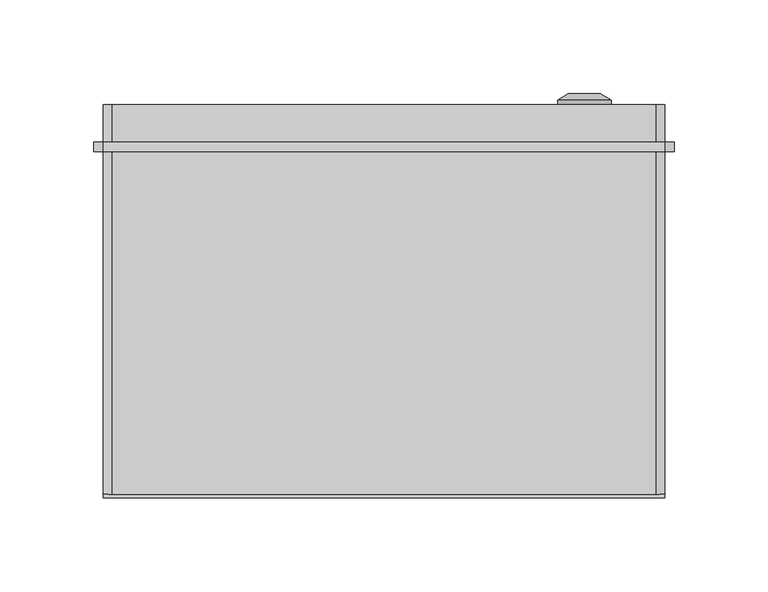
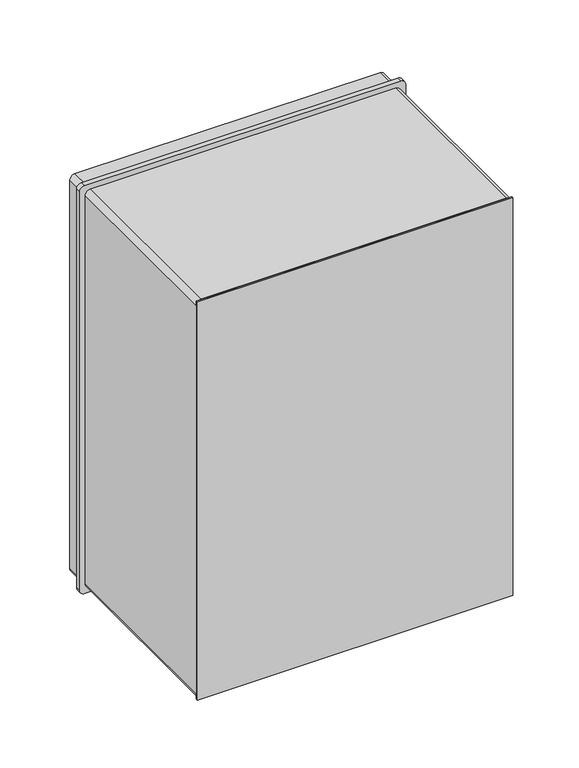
"""IFC4 building model written with IfcOpenShell, lengths in millimetres: proxy geometry, ЩПМП_IP55 : ЩПМП-1-0."""

import ifcopenshell
import ifcopenshell.guid

model = None  # the IFC model being written
_history = None  # IfcOwnerHistory: only IFC2X3 demands one
_inside = {}  # id of a spatial element -> (the spatial element, [elements in it])
_under = {}  # id of a project, library or spatial element -> (it, [spatial elements below it])
_declared = {}  # id of a project -> (the project, [libraries it declares])
_typed = {}  # id of a type object -> (the type object, [elements of that type])
_made_of = {}  # id of a material, layer set ... -> (it, [elements and type objects made of it])


def new_model(schema):
    """Start an empty IFC model of exactly this schema.

    Asked for "IFC4X3", IfcOpenShell would pick the latest addendum, in which some entities
    have other attributes; the version numbers below select the first issue.
    IFC2X3 requires an IfcOwnerHistory on every rooted entity: one is made here for all.
    """
    global model, _history
    if schema == "IFC4X3":
        model = ifcopenshell.file(schema_version=(4, 3, 0, 0))
    else:
        model = ifcopenshell.file(schema=schema)
    _inside.clear()
    _under.clear()
    _declared.clear()
    _typed.clear()
    _made_of.clear()
    _history = None
    if model.schema == "IFC2X3":
        org = make("IfcOrganization", Name="unknown")
        user = make(
            "IfcPersonAndOrganization",
            ThePerson=make("IfcPerson", FamilyName="unknown"),
            TheOrganization=org,
        )
        app = make(
            "IfcApplication",
            ApplicationDeveloper=org,
            Version="unknown",
            ApplicationFullName="unknown",
            ApplicationIdentifier="unknown",
        )
        _history = make(
            "IfcOwnerHistory",
            OwningUser=user,
            OwningApplication=app,
            ChangeAction="ADDED",
            CreationDate=0,
        )
    return model


def make(cls, **values):
    """One entity of the class cls with the attributes given. An attribute that is None is left unset."""
    return model.create_entity(
        cls, **{name: value for name, value in values.items() if value is not None}
    )


def rooted(cls, **values):
    """An entity with a GlobalId (a new one), such as an element, a storey or a relation."""
    return make(cls, GlobalId=ifcopenshell.guid.new(), OwnerHistory=_history, **values)


def si_unit(unit_type, name, prefix=None):
    """IfcSIUnit, for example si_unit("LENGTHUNIT", "METRE", prefix="MILLI")."""
    return make("IfcSIUnit", UnitType=unit_type, Prefix=prefix, Name=name)


def assignment(units):
    """IfcUnitAssignment: the units of a project."""
    return None if units is None else make("IfcUnitAssignment", Units=units)


def point(xyz):
    """IfcCartesianPoint."""
    return None if xyz is None else make("IfcCartesianPoint", Coordinates=xyz)


def direction(xyz):
    """IfcDirection."""
    return None if xyz is None else make("IfcDirection", DirectionRatios=xyz)


def frame(location, z_axis=None, x_axis=None):
    """IfcAxis2Placement3D, a coordinate frame: its origin and axes. An axis left out is left unset."""
    return make(
        "IfcAxis2Placement3D",
        Location=point(location),
        Axis=direction(z_axis),
        RefDirection=direction(x_axis),
    )


def frame_2d(location, x_axis=None):
    """IfcAxis2Placement2D, a coordinate frame in the plane: its origin and x axis."""
    return make(
        "IfcAxis2Placement2D", Location=point(location), RefDirection=direction(x_axis)
    )


def origin():
    """The frame at (0, 0, 0) with its axes left unset."""
    return frame((0.0, 0.0, 0.0))


def origin_with_axes():
    """The frame at (0, 0, 0) with the z axis (0, 0, 1) and the x axis (1, 0, 0) written out."""
    return frame((0.0, 0.0, 0.0), z_axis=(0.0, 0.0, 1.0), x_axis=(1.0, 0.0, 0.0))


def place(relative_to, where):
    """IfcLocalPlacement: puts the frame where relative to a parent placement (None: the world)."""
    return make(
        "IfcLocalPlacement", PlacementRelTo=relative_to, RelativePlacement=where
    )


def context(
    kind, dimensions, precision=None, world=None, true_north=None, identifier=None
):
    """IfcGeometricRepresentationContext, for example the 3D "Model" context."""
    return make(
        "IfcGeometricRepresentationContext",
        ContextIdentifier=identifier,
        ContextType=kind,
        CoordinateSpaceDimension=dimensions,
        Precision=precision,
        WorldCoordinateSystem=world,
        TrueNorth=true_north,
    )


def project(units=None, contexts=None):
    """IfcProject with its units and contexts."""
    return rooted(
        "IfcProject",
        Name="project",
        RepresentationContexts=contexts,
        UnitsInContext=assignment(units),
    )


def spatial(cls, under=None, at=None, **own):
    """A site, building, storey or space (cls), placed at a placement, below another one or the project."""
    s = rooted(cls, ObjectPlacement=at, **own)
    if under is not None:
        _under.setdefault(under.id(), (under, []))[1].append(s)
    return s


def polyline(points):
    """IfcPolyline through the points."""
    return make("IfcPolyline", Points=[point(p) for p in points])


def circle_curve(where, radius):
    """IfcCircle in the frame where."""
    return make("IfcCircle", Position=where, Radius=radius)


def trimmed(basis, trim1, trim2, sense, master):
    """IfcTrimmedCurve: the piece of a basis curve between two trims."""
    return make(
        "IfcTrimmedCurve",
        BasisCurve=basis,
        Trim1=trim1,
        Trim2=trim2,
        SenseAgreement=sense,
        MasterRepresentation=master,
    )


def segment(curve, same_sense, transition):
    """IfcCompositeCurveSegment."""
    return make(
        "IfcCompositeCurveSegment",
        Transition=transition,
        SameSense=same_sense,
        ParentCurve=curve,
    )


def composite_curve(segments, self_intersect=None):
    """IfcCompositeCurve: segments joined end to end."""
    return make("IfcCompositeCurve", Segments=segments, SelfIntersect=self_intersect)


def outline(outer, holes=None, kind="AREA"):
    """IfcArbitraryClosedProfileDef: a profile drawn as a closed curve; with holes, ...WithVoids."""
    if holes is None:
        return make("IfcArbitraryClosedProfileDef", ProfileType=kind, OuterCurve=outer)
    return make(
        "IfcArbitraryProfileDefWithVoids",
        ProfileType=kind,
        OuterCurve=outer,
        InnerCurves=holes,
    )


def extrude(swept, where, along, depth):
    """IfcExtrudedAreaSolid: the profile swept, set in the frame where, extruded along a direction by depth."""
    return make(
        "IfcExtrudedAreaSolid",
        SweptArea=swept,
        Position=where,
        ExtrudedDirection=direction(along),
        Depth=depth,
    )


def shape(context_of_items, identifier, shape_type, items):
    """IfcShapeRepresentation: the items that make up one representation, for example the "Body"."""
    return make(
        "IfcShapeRepresentation",
        ContextOfItems=context_of_items,
        RepresentationIdentifier=identifier,
        RepresentationType=shape_type,
        Items=items,
    )


def source(mapping_origin, context_of_items, identifier, shape_type, items):
    """IfcRepresentationMap: a shape defined once, which mapped items show again and again."""
    return make(
        "IfcRepresentationMap",
        MappingOrigin=mapping_origin,
        MappedRepresentation=shape(context_of_items, identifier, shape_type, items),
    )


def transform(
    local_origin,
    x_axis=None,
    y_axis=None,
    z_axis=None,
    scale=None,
    scale2=None,
    scale3=None,
    uniform=True,
):
    """IfcCartesianTransformationOperator3D, or its non-uniform kind. x_axis, y_axis, z_axis: its Axis1, 2, 3."""
    if uniform:
        return make(
            "IfcCartesianTransformationOperator3D",
            Axis1=direction(x_axis),
            Axis2=direction(y_axis),
            LocalOrigin=point(local_origin),
            Scale=scale,
            Axis3=direction(z_axis),
        )
    return make(
        "IfcCartesianTransformationOperator3DnonUniform",
        Axis1=direction(x_axis),
        Axis2=direction(y_axis),
        LocalOrigin=point(local_origin),
        Scale=scale,
        Axis3=direction(z_axis),
        Scale2=scale2,
        Scale3=scale3,
    )


def mapped(mapping_source, mapping_target):
    """IfcMappedItem: shows the shape of a source again, moved by a transform."""
    return make(
        "IfcMappedItem", MappingSource=mapping_source, MappingTarget=mapping_target
    )


def made_of(thing, what):
    """Note that an element or type object is made of a material, layer set ...; save() writes the relation."""
    if what is not None:
        _made_of.setdefault(what.id(), (what, []))[1].append(thing)
    return thing


def element(
    cls,
    number,
    at=None,
    inside=None,
    cuts=None,
    type_object=None,
    material=None,
    context=None,
    identifier="Body",
    shape_type=None,
    held_by="IfcProductDefinitionShape",
    body=None,
    shapes=None,
    **own,
):
    """One element of the class cls, such as IfcWall. Its Tag is "e" and its number.

    at: its placement. inside: the storey or other place that contains it. cuts: it is an
    opening in that element (IfcRelVoidsElement). A single representation is given by context,
    identifier, shape_type and body (its items); several are given by shapes. held_by: the class
    of the entity that holds the representations. save() writes the other relations.
    """
    e = rooted(cls, Tag="e%d" % number, ObjectPlacement=at, **own)
    if body is not None:
        shapes = [shape(context, identifier, shape_type, body)]
    if shapes is not None:
        e.Representation = make(held_by, Representations=shapes)
    if inside is not None:
        _inside.setdefault(inside.id(), (inside, []))[1].append(e)
    if cuts is not None:
        rooted(
            "IfcRelVoidsElement", RelatingBuildingElement=cuts, RelatedOpeningElement=e
        )
    if type_object is not None:
        _typed.setdefault(type_object.id(), (type_object, []))[1].append(e)
    return made_of(e, material)


def aggregate(whole, parts):
    """IfcRelAggregates: a whole, such as a stair, and the parts it consists of."""
    return rooted("IfcRelAggregates", RelatingObject=whole, RelatedObjects=parts)


def save(model, path):
    """Write the relations noted so far, then the file.

    IfcRelAggregates (storeys below a building ...), IfcRelContainedInSpatialStructure (elements
    in a storey), IfcRelDefinesByType, IfcRelAssociatesMaterial and IfcRelDeclares: one each for
    every whole, place, type object, material and project.
    """
    for whole, parts in _under.values():
        aggregate(whole, parts)
    for where, things in _inside.values():
        rooted(
            "IfcRelContainedInSpatialStructure",
            RelatedElements=things,
            RelatingStructure=where,
        )
    for kind, things in _typed.values():
        rooted("IfcRelDefinesByType", RelatedObjects=things, RelatingType=kind)
    for what, things in _made_of.values():
        rooted("IfcRelAssociatesMaterial", RelatedObjects=things, RelatingMaterial=what)
    for by, libraries in _declared.values():
        rooted("IfcRelDeclares", RelatingContext=by, RelatedDefinitions=libraries)
    model.write(path)


def plane_surface(at):
    """IfcPlane: the flat surface through the origin of the frame at, square to its z axis."""
    return make("IfcPlane", Position=at)


def cylinder_surface(at, radius):
    """IfcCylindricalSurface: all points at the distance radius from the z axis of the frame at."""
    return make("IfcCylindricalSurface", Position=at, Radius=radius)


def revolved_surface(curve, axis_point, axis_direction):
    """IfcSurfaceOfRevolution: the curve turned about the line through axis_point along axis_direction."""
    return make(
        "IfcSurfaceOfRevolution",
        SweptCurve=make("IfcArbitraryOpenProfileDef", ProfileType="CURVE", Curve=curve),
        AxisPosition=make("IfcAxis1Placement", Location=point(axis_point), Axis=direction(axis_direction)),
    )


def advanced_brep(points, edges, surfaces, faces):
    """IfcAdvancedBrep: a solid bounded by faces that lie on surfaces and meet in shared edges.

    An edge is (start, end): straight between two places in points (the first is 0);
    or (start, end, curve); or (start, end, curve, False) where it runs against its curve.
    A face is (place in surfaces, loops), or (place, loops, False) where it looks against
    its surface's normal. A loop lists edges by number (the first is 1), with a minus sign
    where the edge is run from its end to its start. The first loop is the outer one.
    """
    corners = [point(p) for p in points]
    vertices = [make("IfcVertexPoint", VertexGeometry=c) for c in corners]
    made = []
    for start, end, *more in edges:
        made.append(
            make(
                "IfcEdgeCurve",
                EdgeStart=vertices[start],
                EdgeEnd=vertices[end],
                EdgeGeometry=more[0] if more else make("IfcPolyline", Points=[corners[start], corners[end]]),
                SameSense=more[1] if len(more) > 1 else True,
            )
        )
    hull = []
    for where, loops, *sense in faces:
        bounds = []
        for j, loop in enumerate(loops):
            ring = [make("IfcOrientedEdge", EdgeElement=made[abs(k) - 1], Orientation=k > 0) for k in loop]
            bounds.append(
                make(
                    "IfcFaceOuterBound" if j == 0 else "IfcFaceBound",
                    Bound=make("IfcEdgeLoop", EdgeList=ring),
                    Orientation=True,
                )
            )
        hull.append(make("IfcAdvancedFace", Bounds=bounds, FaceSurface=surfaces[where], SameSense=sense[0] if sense else True))
    return make("IfcAdvancedBrep", Outer=make("IfcClosedShell", CfsFaces=hull))


def electrical_equipment_acb14810(model_context):
    return source(origin(), model_context, "Body", "SolidModel", [
        advanced_brep(
        [(92.669873, 210.0, 56.5), (121.330127, 210.0, 56.5), (107.0, 210.0, 56.5), (92.669873, 212.366592, 56.5), (121.330127, 212.366592, 56.5), (98.4845412, 216.0, 56.5), (115.5154588, 216.0, 56.5), (104.0610864, 216.0, 56.5), (109.9389136, 216.0, 56.5), (104.0610864, 214.9822294, 56.5), (109.9389136, 214.9822294, 56.5), (107.0, 214.9822294, 56.5)],
        [
            (0, 1, circle_curve(frame((107.0, 210.0, 56.5), z_axis=(0.0, -1.0, 0.0), x_axis=(1.0, 0.0, 0.0)), 14.330127)),
            (1, 2),
            (2, 0),
            (1, 0, circle_curve(frame((107.0, 210.0, 56.5), z_axis=(0.0, -1.0, 0.0), x_axis=(1.0, 0.0, 0.0)), 14.330127)),
            (3, 4, circle_curve(frame((107.0, 212.366592, 56.5), z_axis=(0.0, -1.0, 0.0), x_axis=(1.0, 0.0, 0.0)), 14.330127)),
            (4, 1),
            (0, 3),
            (4, 3, circle_curve(frame((107.0, 212.366592, 56.5), z_axis=(0.0, -1.0, 0.0), x_axis=(1.0, 0.0, 0.0)), 14.330127)),
            (5, 6, circle_curve(frame((107.0, 216.0, 56.5), z_axis=(0.0, -1.0, 0.0), x_axis=(1.0, 0.0, 0.0)), 8.5154588)),
            (6, 4),
            (3, 5),
            (6, 5, circle_curve(frame((107.0, 216.0, 56.5), z_axis=(0.0, -1.0, 0.0), x_axis=(1.0, 0.0, 0.0)), 8.5154588)),
            (7, 8, circle_curve(frame((107.0, 216.0, 56.5), z_axis=(0.0, -1.0, 0.0), x_axis=(1.0, 0.0, 0.0)), 2.9389136)),
            (8, 6),
            (5, 7),
            (8, 7, circle_curve(frame((107.0, 216.0, 56.5), z_axis=(0.0, -1.0, 0.0), x_axis=(1.0, 0.0, 0.0)), 2.9389136)),
            (9, 10, circle_curve(frame((107.0, 214.9822294, 56.5), z_axis=(0.0, -1.0, 0.0), x_axis=(1.0, 0.0, 0.0)), 2.9389136)),
            (10, 8),
            (7, 9),
            (10, 9, circle_curve(frame((107.0, 214.9822294, 56.5), z_axis=(0.0, -1.0, 0.0), x_axis=(1.0, 0.0, 0.0)), 2.9389136)),
            (11, 10),
            (9, 11),
        ],
        [
            plane_surface(frame((107.0, 210.0, 56.5), z_axis=(0.0, -1.0, 0.0), x_axis=(1.0, 0.0, 0.0))),
            cylinder_surface(frame((107.0, 223.1348851, 56.5), z_axis=(0.0, 1.0, 0.0), x_axis=(1.0, 0.0, 0.0)), 14.330127),
            revolved_surface(polyline([(121.330127, 212.366592, 56.5), (115.5154588, 216.0, 56.5)]), (107.0, 223.1348851, 56.5), (0.0, 1.0, 0.0)),
            plane_surface(frame((107.0, 216.0, 56.5), z_axis=(0.0, 1.0, 0.0), x_axis=(1.0, 0.0, 0.0))),
            revolved_surface(polyline([(109.9389136, 216.0, 56.5), (109.9389136, 214.9822294, 56.5)]), (107.0, 223.1348851, 56.5), (0.0, 1.0, 0.0)),
            plane_surface(frame((107.0, 214.9822294, 56.5), z_axis=(0.0, 1.0, 0.0), x_axis=(1.0, 0.0, 0.0))),
        ],
        [
            (0, [[1, 2, 3]]),
            (0, [[4, -3, -2]]),
            (1, [[5, 6, -1, 7]]),
            (1, [[8, -7, -4, -6]]),
            (2, [[9, 10, -5, 11]]),
            (2, [[12, -11, -8, -10]]),
            (3, [[13, 14, -9, 15]]),
            (3, [[16, -15, -12, -14]]),
            (4, [[17, 18, -13, 19]]),
            (4, [[20, -19, -16, -18]]),
            (5, [[21, -17, 22]]),
            (5, [[-22, -20, -21]]),
        ],
    ),
        advanced_brep(
        [(92.669873, 210.0, 348.5), (121.330127, 210.0, 348.5), (107.0, 210.0, 348.5), (92.669873, 212.366592, 348.5), (121.330127, 212.366592, 348.5), (98.4845412, 216.0, 348.5), (115.5154588, 216.0, 348.5), (104.0610864, 216.0, 348.5), (109.9389136, 216.0, 348.5), (104.0610864, 214.9822294, 348.5), (109.9389136, 214.9822294, 348.5), (107.0, 214.9822294, 348.5)],
        [
            (0, 1, circle_curve(frame((107.0, 210.0, 348.5), z_axis=(0.0, -1.0, 0.0), x_axis=(1.0, 0.0, 0.0)), 14.330127)),
            (1, 2),
            (2, 0),
            (1, 0, circle_curve(frame((107.0, 210.0, 348.5), z_axis=(0.0, -1.0, 0.0), x_axis=(1.0, 0.0, 0.0)), 14.330127)),
            (3, 4, circle_curve(frame((107.0, 212.366592, 348.5), z_axis=(0.0, -1.0, 0.0), x_axis=(1.0, 0.0, 0.0)), 14.330127)),
            (4, 1),
            (0, 3),
            (4, 3, circle_curve(frame((107.0, 212.366592, 348.5), z_axis=(0.0, -1.0, 0.0), x_axis=(1.0, 0.0, 0.0)), 14.330127)),
            (5, 6, circle_curve(frame((107.0, 216.0, 348.5), z_axis=(0.0, -1.0, 0.0), x_axis=(1.0, 0.0, 0.0)), 8.5154588)),
            (6, 4),
            (3, 5),
            (6, 5, circle_curve(frame((107.0, 216.0, 348.5), z_axis=(0.0, -1.0, 0.0), x_axis=(1.0, 0.0, 0.0)), 8.5154588)),
            (7, 8, circle_curve(frame((107.0, 216.0, 348.5), z_axis=(0.0, -1.0, 0.0), x_axis=(1.0, 0.0, 0.0)), 2.9389136)),
            (8, 6),
            (5, 7),
            (8, 7, circle_curve(frame((107.0, 216.0, 348.5), z_axis=(0.0, -1.0, 0.0), x_axis=(1.0, 0.0, 0.0)), 2.9389136)),
            (9, 10, circle_curve(frame((107.0, 214.9822294, 348.5), z_axis=(0.0, -1.0, 0.0), x_axis=(1.0, 0.0, 0.0)), 2.9389136)),
            (10, 8),
            (7, 9),
            (10, 9, circle_curve(frame((107.0, 214.9822294, 348.5), z_axis=(0.0, -1.0, 0.0), x_axis=(1.0, 0.0, 0.0)), 2.9389136)),
            (11, 10),
            (9, 11),
        ],
        [
            plane_surface(frame((107.0, 210.0, 348.5), z_axis=(0.0, -1.0, 0.0), x_axis=(1.0, 0.0, 0.0))),
            cylinder_surface(frame((107.0, 223.1348851, 348.5), z_axis=(0.0, 1.0, 0.0), x_axis=(1.0, 0.0, 0.0)), 14.330127),
            revolved_surface(polyline([(121.330127, 212.366592, 348.5), (115.5154588, 216.0, 348.5)]), (107.0, 223.1348851, 348.5), (0.0, 1.0, 0.0)),
            plane_surface(frame((107.0, 216.0, 348.5), z_axis=(0.0, 1.0, 0.0), x_axis=(1.0, 0.0, 0.0))),
            revolved_surface(polyline([(109.9389136, 216.0, 348.5), (109.9389136, 214.9822294, 348.5)]), (107.0, 223.1348851, 348.5), (0.0, 1.0, 0.0)),
            plane_surface(frame((107.0, 214.9822294, 348.5), z_axis=(0.0, 1.0, 0.0), x_axis=(1.0, 0.0, 0.0))),
        ],
        [
            (0, [[1, 2, 3]]),
            (0, [[4, -3, -2]]),
            (1, [[5, 6, -1, 7]]),
            (1, [[8, -7, -4, -6]]),
            (2, [[9, 10, -5, 11]]),
            (2, [[12, -11, -8, -10]]),
            (3, [[13, 14, -9, 15]]),
            (3, [[16, -15, -12, -14]]),
            (4, [[17, 18, -13, 19]]),
            (4, [[20, -19, -16, -18]]),
            (5, [[21, -17, 22]]),
            (5, [[-22, -20, -21]]),
        ],
    ),
        extrude(outline(composite_curve([segment(trimmed(circle_curve(frame_2d((400.0, -150.0)), 5.0), [point((405.0, -150.0))], [point((400.0, -155.0))], False, "CARTESIAN"), True, "CONTINUOUS"), segment(polyline([(400.0, -155.0), (0.0, -155.0)]), True, "CONTINUOUS"), segment(trimmed(circle_curve(frame_2d((0.0, -150.0)), 5.0), [point((0.0, -155.0))], [point((-5.0, -150.0))], False, "CARTESIAN"), True, "CONTINUOUS"), segment(polyline([(-5.0, -150.0), (-5.0, 150.0)]), True, "CONTINUOUS"), segment(trimmed(circle_curve(frame_2d((0.0, 150.0)), 5.0), [point((-5.0, 150.0))], [point((0.0, 155.0))], False, "CARTESIAN"), True, "CONTINUOUS"), segment(polyline([(0.0, 155.0), (400.0, 155.0)]), True, "CONTINUOUS"), segment(trimmed(circle_curve(frame_2d((400.0, 150.0)), 5.0), [point((400.0, 155.0))], [point((405.0, 150.0))], False, "CARTESIAN"), True, "CONTINUOUS"), segment(polyline([(405.0, 150.0), (405.0, -150.0)]), True, "CONTINUOUS")], self_intersect=False)), frame((0.0, 185.0, 0.0), z_axis=(0.0, 1.0, 0.0), x_axis=(0.0, 0.0, 1.0)), (0.0, 0.0, 1.0), 5.0),
        extrude(outline(composite_curve([segment(trimmed(circle_curve(frame_2d((395.0, -145.0)), 5.0), [point((400.0, -145.0))], [point((395.0, -150.0))], False, "CARTESIAN"), True, "CONTINUOUS"), segment(polyline([(395.0, -150.0), (5.0, -150.0)]), True, "CONTINUOUS"), segment(trimmed(circle_curve(frame_2d((5.0, -145.0)), 5.0), [point((5.0, -150.0))], [point((0.0, -145.0))], False, "CARTESIAN"), True, "CONTINUOUS"), segment(polyline([(0.0, -145.0), (0.0, 145.0)]), True, "CONTINUOUS"), segment(trimmed(circle_curve(frame_2d((5.0, 145.0)), 5.0), [point((0.0, 145.0))], [point((5.0, 150.0))], False, "CARTESIAN"), True, "CONTINUOUS"), segment(polyline([(5.0, 150.0), (395.0, 150.0)]), True, "CONTINUOUS"), segment(trimmed(circle_curve(frame_2d((395.0, 145.0)), 5.0), [point((395.0, 150.0))], [point((400.0, 145.0))], False, "CARTESIAN"), True, "CONTINUOUS"), segment(polyline([(400.0, 145.0), (400.0, -145.0)]), True, "CONTINUOUS")], self_intersect=False)), frame((0.0, 190.0, 0.0), z_axis=(0.0, 1.0, 0.0), x_axis=(0.0, 0.0, 1.0)), (0.0, 0.0, 1.0), 20.0),
        extrude(outline(composite_curve([segment(trimmed(circle_curve(frame_2d((395.0, -145.0033905)), 5.0), [point((400.0, -145.0033905))], [point((395.0, -150.0033905))], False, "CARTESIAN"), True, "CONTINUOUS"), segment(polyline([(395.0, -150.0033905), (5.0, -150.0033905)]), True, "CONTINUOUS"), segment(trimmed(circle_curve(frame_2d((5.0, -145.0033905)), 5.0), [point((5.0, -150.0033905))], [point((0.0, -145.0033905))], False, "CARTESIAN"), True, "CONTINUOUS"), segment(polyline([(0.0, -145.0033905), (0.0, 144.9966095)]), True, "CONTINUOUS"), segment(trimmed(circle_curve(frame_2d((5.0, 144.9966095)), 5.0), [point((0.0, 144.9966095))], [point((5.0, 149.9966095))], False, "CARTESIAN"), True, "CONTINUOUS"), segment(polyline([(5.0, 149.9966095), (395.0, 149.9966095)]), True, "CONTINUOUS"), segment(trimmed(circle_curve(frame_2d((395.0, 144.9966095)), 5.0), [point((395.0, 149.9966095))], [point((400.0, 144.9966095))], False, "CARTESIAN"), True, "CONTINUOUS"), segment(polyline([(400.0, 144.9966095), (400.0, -145.0033905)]), True, "CONTINUOUS")], self_intersect=False), holes=[polyline([(365.0, -117.0033905), (365.0, 116.9966095), (35.0, 116.9966095), (35.0, -117.0033905), (365.0, -117.0033905)])]), frame((0.0, 2.0, 0.0), z_axis=(0.0, 1.0, 0.0), x_axis=(0.0, 0.0, 1.0)), (0.0, 0.0, 1.0), 183.0),
        extrude(outline(polyline([(150.0, 0.0), (-150.0, 0.0), (-150.0, 2.0), (150.0, 2.0), (150.0, 0.0)])), origin_with_axes(), (0.0, 0.0, 1.0), 400.0),
    ])


if __name__ == "__main__":
    model = new_model("IFC4")
    model_context = context("Model", 3, world=origin())
    ifc_project = project(units=[si_unit("LENGTHUNIT", "METRE", prefix="MILLI")], contexts=[model_context])
    site = spatial("IfcSite", under=ifc_project)
    building = spatial("IfcBuilding", under=site)
    placement = place(None, origin())
    electrical_equipment_shape = electrical_equipment_acb14810(model_context)
    element("IfcBuildingElementProxy", 1, Name="ЩПМП_IP55 : ЩПМП-1-0", ObjectType="ЩПМП_IP55 : ЩПМП-1-0", at=placement, inside=building, context=model_context, shape_type="MappedRepresentation", body=[
        mapped(electrical_equipment_shape, transform((0.0, 0.0, 0.0), x_axis=(1.0, 0.0, 0.0), y_axis=(0.0, 1.0, 0.0), z_axis=(0.0, 0.0, 1.0))),
    ])
    save(model, "model.ifc")
